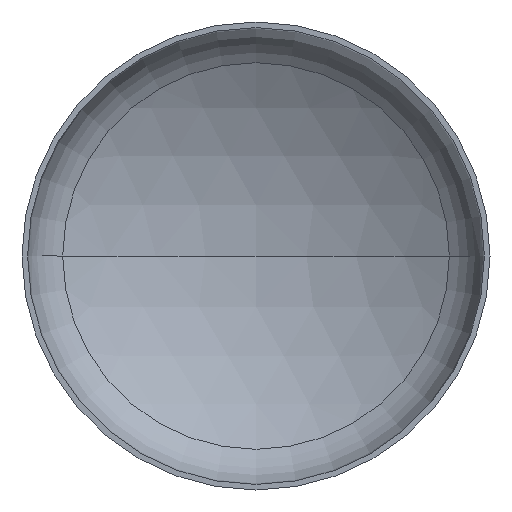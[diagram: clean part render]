
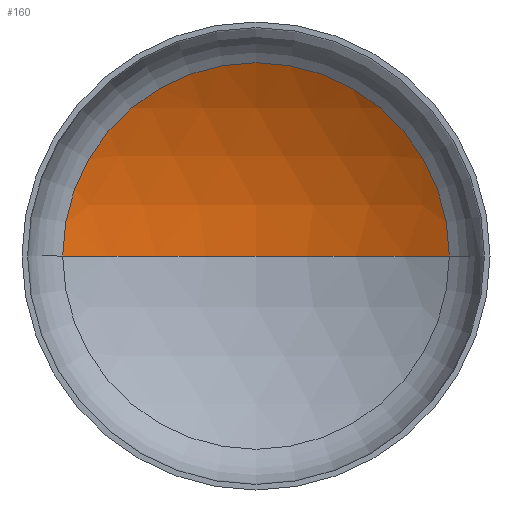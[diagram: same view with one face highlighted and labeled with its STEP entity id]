
A CAD part, front view. The second image highlights one B-rep face of the part: STEP entity #160.
In plain terms, the highlighted spherical face has radius 1600 mm.
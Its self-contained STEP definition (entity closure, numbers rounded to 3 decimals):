
#8 = VERTEX_POINT ( 'NONE', #246 ) ;
#27 = AXIS2_PLACEMENT_3D ( 'NONE', #235, #142, #231 ) ;
#34 = AXIS2_PLACEMENT_3D ( 'NONE', #313, #363, #287 ) ;
#36 = AXIS2_PLACEMENT_3D ( 'NONE', #132, #133, #136 ) ;
#38 = AXIS2_PLACEMENT_3D ( 'NONE', #165, #166, #156 ) ;
#42 = VERTEX_POINT ( 'NONE', #223 ) ;
#78 = EDGE_CURVE ( 'NONE', #177, #42, #335, .T. ) ;
#82 = EDGE_CURVE ( 'NONE', #8, #177, #259, .T. ) ;
#83 = EDGE_CURVE ( 'NONE', #8, #42, #182, .T. ) ;
#94 = FACE_OUTER_BOUND ( 'NONE', #299, .T. ) ;
#132 = CARTESIAN_POINT ( 'NONE',  ( 0., -1029.782, 0. ) ) ;
#133 = DIRECTION ( 'NONE',  ( 0., 0., -1. ) ) ;
#136 = DIRECTION ( 'NONE',  ( -1., 0., 0. ) ) ;
#142 = DIRECTION ( 'NONE',  ( 0., 0., -1. ) ) ;
#156 = DIRECTION ( 'NONE',  ( 1., 0., 0. ) ) ;
#160 = ADVANCED_FACE ( 'NONE', ( #94 ), #311, .F. ) ;
#165 = CARTESIAN_POINT ( 'NONE',  ( 0., 340.49, 0. ) ) ;
#166 = DIRECTION ( 'NONE',  ( 0., -1., 0. ) ) ;
#177 = VERTEX_POINT ( 'NONE', #187 ) ;
#182 = CIRCLE ( 'NONE', #34, 1600. ) ;
#187 = CARTESIAN_POINT ( 'NONE',  ( 826.047, 340.49, 0. ) ) ;
#202 = ORIENTED_EDGE ( 'NONE', *, *, #83, .F. ) ;
#223 = CARTESIAN_POINT ( 'NONE',  ( -826.047, 340.49, 0. ) ) ;
#231 = DIRECTION ( 'NONE',  ( -1., 0., 0. ) ) ;
#235 = CARTESIAN_POINT ( 'NONE',  ( 0., -1029.782, 0. ) ) ;
#246 = CARTESIAN_POINT ( 'NONE',  ( 0., 570.218, 0. ) ) ;
#252 = ORIENTED_EDGE ( 'NONE', *, *, #82, .T. ) ;
#259 = CIRCLE ( 'NONE', #36, 1600. ) ;
#287 = DIRECTION ( 'NONE',  ( 1., 0., 0. ) ) ;
#290 = ORIENTED_EDGE ( 'NONE', *, *, #78, .T. ) ;
#299 = EDGE_LOOP ( 'NONE', ( #202, #252, #290 ) ) ;
#311 = SPHERICAL_SURFACE ( 'NONE', #27, 1600. ) ;
#313 = CARTESIAN_POINT ( 'NONE',  ( 0., -1029.782, 0. ) ) ;
#335 = CIRCLE ( 'NONE', #38, 826.047 ) ;
#363 = DIRECTION ( 'NONE',  ( 0., 0., 1. ) ) ;
